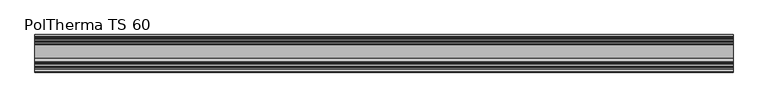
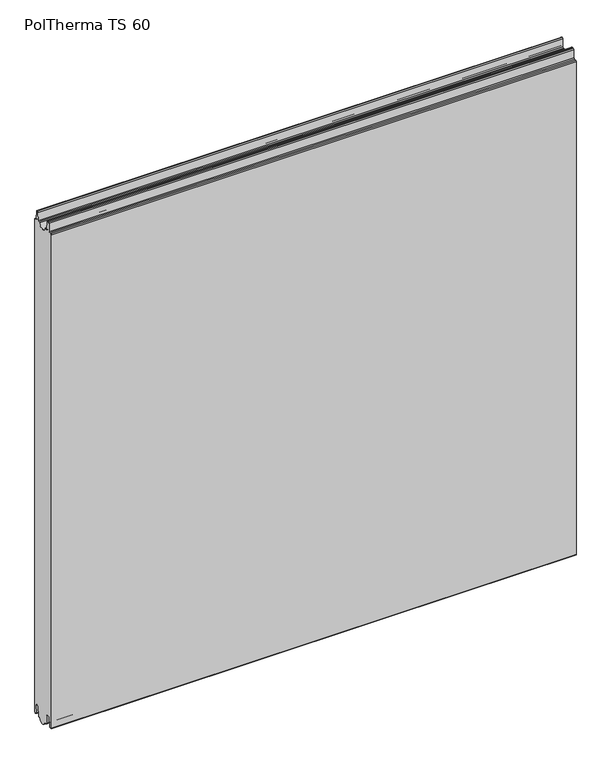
"""IFC4 building model written with IfcOpenShell, lengths in millimetres: plate geometry, Europanels_Poltherma TS_Hz : PolTherma TS 60."""

from ifc_helpers import new_model, si_unit, frame, origin, place, context, project, spatial, polyline, circle_curve, source, transform, mapped, element, save
from ifc_brep_helpers import plane_surface, cylinder_surface, revolved_surface, advanced_brep


def poltherma_ts_60_d6ba0856(model_context):
    return source(origin(), model_context, "Body", "AdvancedBrep", [
        advanced_brep(
        [(550.0, -30.0, 1096.5011047), (550.0, -30.0, 3.4988953), (550.0, -28.0, 1.4988953), (550.0, -25.2751521, 1.4988953), (550.0, -23.2780726, 3.3908514), (550.0, -22.3165207, 21.1641379), (550.0, -19.3209015, 24.0020721), (550.0, -16.3793238, 24.0020721), (550.0, -13.3842966, 21.1747334), (550.0, -12.3477941, 3.1952985), (550.0, -10.5507777, 1.4988953), (550.0, -7.1267156, 1.4988953), (550.0, 12.5267156, 1.4988953), (550.0, 14.9895357, 1.4988953), (550.0, 16.7366349, 3.1481762), (550.0, 17.7718427, 21.1051522), (550.0, 24.3282622, 21.093556), (550.0, 25.2663769, 3.7534806), (550.0, 30.0, 3.8814338), (550.0, 30.0, 1096.5011047), (550.0, 28.0, 1098.5011047), (550.0, 26.2557869, 1098.5011047), (550.0, 24.2596673, 1100.3765791), (550.0, 23.1836057, 1117.6256302), (550.0, 20.8891901, 1119.5129093), (550.0, 18.8727407, 1117.5838246), (550.0, 18.1120505, 1100.4152514), (550.0, 16.113894, 1098.5011047), (550.0, 13.3234285, 1098.5011047), (550.0, -7.9234285, 1098.5011047), (550.0, -11.9117672, 1098.5011047), (550.0, -13.7101357, 1100.2244834), (550.0, -14.4498501, 1117.5862394), (550.0, -16.4480373, 1119.5011047), (550.0, -19.1874198, 1119.5011047), (550.0, -21.1836192, 1117.624345), (550.0, -22.2483736, 1100.3778643), (550.0, -24.244573, 1098.5011047), (550.0, -28.0, 1098.5011047), (-550.0, -30.0, 1096.5011047), (-550.0, -28.0, 1098.5011047), (-550.0, -24.244573, 1098.5011047), (-550.0, -22.2483736, 1100.3778643), (-550.0, -21.1836192, 1117.624345), (-550.0, -19.1874198, 1119.5011047), (-550.0, -16.4480373, 1119.5011047), (-550.0, -14.4498501, 1117.5862394), (-550.0, -13.7101357, 1100.2244834), (-550.0, -11.9117672, 1098.5011047), (-550.0, -7.9234285, 1098.5011047), (-550.0, 13.3234285, 1098.5011047), (-550.0, 16.113894, 1098.5011047), (-550.0, 18.1120505, 1100.4152514), (-550.0, 18.8727407, 1117.5838246), (-550.0, 20.8891901, 1119.5129093), (-550.0, 23.1349611, 1117.6366155), (-550.0, 24.2596673, 1100.3765791), (-550.0, 26.2557869, 1098.5011047), (-550.0, 28.0, 1098.5011047), (-550.0, 30.0, 1096.5011047), (-550.0, 30.0, 3.8814338), (-550.0, 25.2663769, 3.7534806), (-550.0, 24.3282622, 21.093556), (-550.0, 17.7718427, 21.1051522), (-550.0, 16.7366349, 3.1481762), (-550.0, 14.9895357, 1.4988953), (-550.0, 12.5267156, 1.4988953), (-550.0, -7.1267156, 1.4988953), (-550.0, -10.5507777, 1.4988953), (-550.0, -12.3477941, 3.1952985), (-550.0, -13.3842966, 21.1747334), (-550.0, -16.3793238, 24.0020721), (-550.0, -19.3209015, 24.0020721), (-550.0, -22.3165207, 21.1641379), (-550.0, -23.2780726, 3.3908514), (-550.0, -25.2751521, 1.4988953), (-550.0, -28.0, 1.4988953), (-550.0, -30.0, 3.4988953)],
        [
            (0, 1),
            (1, 2, circle_curve(frame((550.0, -28.0, 3.4988953), z_axis=(1.0, 0.0, 0.0), x_axis=(0.0, 1.0, 0.0)), 2.0)),
            (2, 3),
            (3, 4, circle_curve(frame((550.0, -25.2751521, 3.4988953), z_axis=(1.0, 0.0, 0.0), x_axis=(0.0, 1.0, 0.0)), 2.0)),
            (4, 5),
            (5, 6, circle_curve(frame((550.0, -19.3209015, 21.0020721), z_axis=(-1.0, 0.0, 0.0), x_axis=(0.0, 1.0, 0.0)), 3.0)),
            (6, 7),
            (7, 8, circle_curve(frame((550.0, -16.3793238, 21.0020721), z_axis=(-1.0, 0.0, 0.0), x_axis=(0.0, 1.0, 0.0)), 3.0)),
            (8, 9),
            (9, 10, circle_curve(frame((550.0, -10.5507777, 3.2988953), z_axis=(1.0, 0.0, 0.0), x_axis=(0.0, 1.0, 0.0)), 1.8)),
            (10, 11),
            (11, 12, circle_curve(frame((550.0, 2.7, 3.3524487), z_axis=(1.0, 0.0, 0.0), x_axis=(0.0, 1.0, 0.0)), 10.0)),
            (12, 13),
            (13, 14, circle_curve(frame((550.0, 14.9895357, 3.2488953), z_axis=(1.0, 0.0, 0.0), x_axis=(0.0, 1.0, 0.0)), 1.75)),
            (14, 15),
            (15, 16, circle_curve(frame((550.0, 21.0497285, 20.9161842), z_axis=(-1.0, 0.0, 0.0), x_axis=(0.0, 1.0, 0.0)), 3.2833282)),
            (16, 17),
            (17, 18, circle_curve(frame((550.0, 27.6314591, 3.8814338), z_axis=(1.0, 0.0, 0.0), x_axis=(0.0, 1.0, 0.0)), 2.3685409)),
            (18, 19),
            (19, 20, circle_curve(frame((550.0, 28.0, 1096.5011047), z_axis=(1.0, 0.0, 0.0), x_axis=(0.0, 1.0, 0.0)), 2.0)),
            (20, 21),
            (21, 22, circle_curve(frame((550.0, 26.2557869, 1100.5011047), z_axis=(-1.0, 0.0, 0.0), x_axis=(0.0, 1.0, 0.0)), 2.0)),
            (22, 23),
            (23, 24, circle_curve(frame((550.0, 21.1234323, 1117.5111287), z_axis=(1.0, 0.0, 0.0), x_axis=(0.0, 1.0, 0.0)), 2.0154391)),
            (24, 25, circle_curve(frame((550.0, 20.8891901, 1117.4944815), z_axis=(1.0, 0.0, 0.0), x_axis=(0.0, 1.0, 0.0)), 2.0184277)),
            (25, 26),
            (26, 27, circle_curve(frame((550.0, 16.113894, 1100.5011047), z_axis=(-1.0, 0.0, 0.0), x_axis=(0.0, 1.0, 0.0)), 2.0)),
            (27, 28),
            (28, 29, circle_curve(frame((550.0, 2.7, 1101.354658), z_axis=(-1.0, 0.0, 0.0), x_axis=(0.0, 1.0, 0.0)), 11.0)),
            (29, 30),
            (30, 31, circle_curve(frame((550.0, -11.9117672, 1100.3011047), z_axis=(-1.0, 0.0, 0.0), x_axis=(0.0, 1.0, 0.0)), 1.8)),
            (31, 32),
            (32, 33, circle_curve(frame((550.0, -16.4480373, 1117.5011047), z_axis=(1.0, 0.0, 0.0), x_axis=(0.0, 1.0, 0.0)), 2.0)),
            (33, 34),
            (34, 35, circle_curve(frame((550.0, -19.1874198, 1117.5011047), z_axis=(1.0, 0.0, 0.0), x_axis=(0.0, 1.0, 0.0)), 2.0)),
            (35, 36),
            (36, 37, circle_curve(frame((550.0, -24.244573, 1100.5011047), z_axis=(-1.0, 0.0, 0.0), x_axis=(0.0, 1.0, 0.0)), 2.0)),
            (37, 38),
            (38, 0, circle_curve(frame((550.0, -28.0, 1096.5011047), z_axis=(1.0, 0.0, 0.0), x_axis=(0.0, 1.0, 0.0)), 2.0)),
            (39, 40, circle_curve(frame((-550.0, -28.0, 1096.5011047), z_axis=(-1.0, 0.0, 0.0), x_axis=(0.0, 1.0, 0.0)), 2.0)),
            (40, 41),
            (41, 42, circle_curve(frame((-550.0, -24.244573, 1100.5011047), z_axis=(1.0, 0.0, 0.0), x_axis=(0.0, 1.0, 0.0)), 2.0)),
            (42, 43),
            (43, 44, circle_curve(frame((-550.0, -19.1874198, 1117.5011047), z_axis=(-1.0, 0.0, 0.0), x_axis=(0.0, 1.0, 0.0)), 2.0)),
            (44, 45),
            (45, 46, circle_curve(frame((-550.0, -16.4480373, 1117.5011047), z_axis=(-1.0, 0.0, 0.0), x_axis=(0.0, 1.0, 0.0)), 2.0)),
            (46, 47),
            (47, 48, circle_curve(frame((-550.0, -11.9117672, 1100.3011047), z_axis=(1.0, 0.0, 0.0), x_axis=(0.0, 1.0, 0.0)), 1.8)),
            (48, 49),
            (49, 50, circle_curve(frame((-550.0, 2.7, 1101.354658), z_axis=(1.0, 0.0, 0.0), x_axis=(0.0, 1.0, 0.0)), 11.0)),
            (50, 51),
            (51, 52, circle_curve(frame((-550.0, 16.113894, 1100.5011047), z_axis=(1.0, 0.0, 0.0), x_axis=(0.0, 1.0, 0.0)), 2.0)),
            (52, 53),
            (53, 54, circle_curve(frame((-550.0, 20.8891901, 1117.4944815), z_axis=(-1.0, 0.0, 0.0), x_axis=(0.0, 1.0, 0.0)), 2.0184277)),
            (54, 55, circle_curve(frame((-550.0, 21.1234323, 1117.5111287), z_axis=(-1.0, 0.0, 0.0), x_axis=(0.0, 1.0, 0.0)), 2.0154391)),
            (55, 56),
            (56, 57, circle_curve(frame((-550.0, 26.2557869, 1100.5011047), z_axis=(1.0, 0.0, 0.0), x_axis=(0.0, 1.0, 0.0)), 2.0)),
            (57, 58),
            (58, 59, circle_curve(frame((-550.0, 28.0, 1096.5011047), z_axis=(-1.0, 0.0, 0.0), x_axis=(0.0, 1.0, 0.0)), 2.0)),
            (59, 60),
            (60, 61, circle_curve(frame((-550.0, 27.6314591, 3.8814338), z_axis=(-1.0, 0.0, 0.0), x_axis=(0.0, 1.0, 0.0)), 2.3685409)),
            (61, 62),
            (62, 63, circle_curve(frame((-550.0, 21.0497285, 20.9161842), z_axis=(1.0, 0.0, 0.0), x_axis=(0.0, 1.0, 0.0)), 3.2833282)),
            (63, 64),
            (64, 65, circle_curve(frame((-550.0, 14.9895357, 3.2488953), z_axis=(-1.0, 0.0, 0.0), x_axis=(0.0, 1.0, 0.0)), 1.75)),
            (65, 66),
            (66, 67, circle_curve(frame((-550.0, 2.7, 3.3524487), z_axis=(-1.0, 0.0, 0.0), x_axis=(0.0, 1.0, 0.0)), 10.0)),
            (67, 68),
            (68, 69, circle_curve(frame((-550.0, -10.5507777, 3.2988953), z_axis=(-1.0, 0.0, 0.0), x_axis=(0.0, 1.0, 0.0)), 1.8)),
            (69, 70),
            (70, 71, circle_curve(frame((-550.0, -16.3793238, 21.0020721), z_axis=(1.0, 0.0, 0.0), x_axis=(0.0, 1.0, 0.0)), 3.0)),
            (71, 72),
            (72, 73, circle_curve(frame((-550.0, -19.3209015, 21.0020721), z_axis=(1.0, 0.0, 0.0), x_axis=(0.0, 1.0, 0.0)), 3.0)),
            (73, 74),
            (74, 75, circle_curve(frame((-550.0, -25.2751521, 3.4988953), z_axis=(-1.0, 0.0, 0.0), x_axis=(0.0, 1.0, 0.0)), 2.0)),
            (75, 76),
            (76, 77, circle_curve(frame((-550.0, -28.0, 3.4988953), z_axis=(-1.0, 0.0, 0.0), x_axis=(0.0, 1.0, 0.0)), 2.0)),
            (77, 39),
            (0, 39),
            (77, 1),
            (76, 2),
            (75, 3),
            (74, 4),
            (73, 5),
            (72, 6),
            (71, 7),
            (70, 8),
            (69, 9),
            (68, 10),
            (67, 11),
            (66, 12),
            (65, 13),
            (64, 14),
            (63, 15),
            (62, 16),
            (61, 17),
            (60, 18),
            (59, 19),
            (58, 20),
            (57, 21),
            (56, 22),
            (55, 23),
            (54, 24),
            (53, 25),
            (52, 26),
            (51, 27),
            (50, 28),
            (49, 29),
            (48, 30),
            (47, 31),
            (46, 32),
            (45, 33),
            (44, 34),
            (43, 35),
            (42, 36),
            (41, 37),
            (40, 38),
        ],
        [
            plane_surface(frame((550.0, -30.0, 3.4988953), z_axis=(1.0, 0.0, 0.0), x_axis=(0.0, 0.0, -1.0))),
            plane_surface(frame((-550.0, -30.0, 3.4988953), z_axis=(-1.0, 0.0, 0.0), x_axis=(0.0, 0.0, 1.0))),
            plane_surface(frame((550.0, -30.0, 1096.5011047), z_axis=(0.0, -1.0, 0.0), x_axis=(-1.0, 0.0, 0.0))),
            cylinder_surface(frame((-550.0, -28.0, 3.4988953), z_axis=(1.0, 0.0, 0.0), x_axis=(0.0, 1.0, 0.0)), 2.0),
            plane_surface(frame((550.0, -28.0, 1.4988953), z_axis=(0.0, 2.4317940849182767e-11, -1.0), x_axis=(-1.0, 0.0, 0.0))),
            cylinder_surface(frame((-550.0, -25.2751521, 3.4988953), z_axis=(1.0, 0.0, 0.0), x_axis=(0.0, 1.0, 0.0)), 2.0),
            plane_surface(frame((550.0, -23.2780726, 3.3908514), z_axis=(0.0, 0.9985397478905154, -0.054021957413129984), x_axis=(-1.0, 0.0, 0.0))),
            revolved_surface(polyline([(-550.0, -16.3209015, 21.0020721), (550.0, -16.3209015, 21.0020721)]), (-550.0, -19.3209015, 21.0020721), (-1.0, 0.0, 0.0)),
            plane_surface(frame((550.0, -19.3209015, 24.0020721), z_axis=(0.0, -3.679808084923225e-12, -1.0), x_axis=(-1.0, 0.0, 0.0))),
            revolved_surface(polyline([(-550.0, -13.379323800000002, 21.0020721), (550.0, -13.379323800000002, 21.0020721)]), (-550.0, -16.3793238, 21.0020721), (-1.0, 0.0, 0.0)),
            plane_surface(frame((550.0, -13.3842966, 21.1747334), z_axis=(0.0, -0.9983424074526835, -0.05755377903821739), x_axis=(-1.0, 0.0, 0.0))),
            cylinder_surface(frame((-550.0, -10.5507777, 3.2988953), z_axis=(1.0, 0.0, 0.0), x_axis=(0.0, 1.0, 0.0)), 1.8),
            plane_surface(frame((550.0, -10.5507777, 1.4988953), z_axis=(0.0, 7.512842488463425e-12, -1.0), x_axis=(-1.0, 0.0, 0.0))),
            cylinder_surface(frame((-550.0, 2.7, 3.3524487), z_axis=(1.0, 0.0, 0.0), x_axis=(0.0, 1.0, 0.0)), 10.0),
            plane_surface(frame((550.0, 12.5267156, 1.4988953), z_axis=(0.0, -5.6448534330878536e-11, -1.0), x_axis=(-1.0, 0.0, 0.0))),
            cylinder_surface(frame((-550.0, 14.9895357, 3.2488953), z_axis=(1.0, 0.0, 0.0), x_axis=(0.0, 1.0, 0.0)), 1.75),
            plane_surface(frame((550.0, 16.7366349, 3.1481762), z_axis=(0.0, 0.9983424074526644, -0.05755377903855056), x_axis=(-1.0, 0.0, 0.0))),
            revolved_surface(polyline([(-550.0, 24.3330567, 20.9161842), (550.0, 24.3330567, 20.9161842)]), (-550.0, 21.0497285, 20.9161842), (-1.0, 0.0, 0.0)),
            plane_surface(frame((550.0, 24.3282622, 21.093556), z_axis=(0.0, -0.9985397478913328, -0.05402195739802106), x_axis=(-1.0, 0.0, 0.0))),
            cylinder_surface(frame((-550.0, 27.6314591, 3.8814338), z_axis=(1.0, 0.0, 0.0), x_axis=(0.0, 1.0, 0.0)), 2.3685409),
            plane_surface(frame((550.0, 30.0, 3.8814338), z_axis=(0.0, 1.0, 0.0), x_axis=(-1.0, 0.0, 0.0))),
            cylinder_surface(frame((-550.0, 28.0, 1096.5011047), z_axis=(1.0, 0.0, 0.0), x_axis=(0.0, 1.0, 0.0)), 2.0),
            plane_surface(frame((550.0, 28.0, 1098.5011047), z_axis=(0.0, 1.862502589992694e-12, 1.0), x_axis=(-1.0, 0.0, 0.0))),
            revolved_surface(polyline([(-550.0, 28.2557869, 1100.5011047), (550.0, 28.2557869, 1100.5011047)]), (-550.0, 26.2557869, 1100.5011047), (-1.0, 0.0, 0.0)),
            plane_surface(frame((550.0, 24.2596673, 1100.3765791), z_axis=(0.0, 0.9980597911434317, 0.06226277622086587), x_axis=(-1.0, 0.0, 0.0))),
            cylinder_surface(frame((-550.0, 21.1234323, 1117.5111287), z_axis=(1.0, 0.0, 0.0), x_axis=(0.0, 1.0, 0.0)), 2.0154391),
            cylinder_surface(frame((-550.0, 20.8891901, 1117.4944815), z_axis=(1.0, 0.0, 0.0), x_axis=(0.0, 1.0, 0.0)), 2.0184277),
            plane_surface(frame((550.0, 18.8727407, 1117.5838246), z_axis=(0.0, -0.9990198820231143, 0.04426370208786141), x_axis=(-1.0, 0.0, 0.0))),
            revolved_surface(polyline([(-550.0, 18.113894, 1100.5011047), (550.0, 18.113894, 1100.5011047)]), (-550.0, 16.113894, 1100.5011047), (-1.0, 0.0, 0.0)),
            plane_surface(frame((550.0, 16.113894, 1098.5011047), z_axis=(0.0, 0.0, 1.0), x_axis=(-1.0, 0.0, 0.0))),
            revolved_surface(polyline([(-550.0, 13.7, 1101.354658), (550.0, 13.7, 1101.354658)]), (-550.0, 2.7, 1101.354658), (-1.0, 0.0, 0.0)),
            plane_surface(frame((550.0, -7.9234285, 1098.5011047), z_axis=(0.0, 0.0, 1.0), x_axis=(-1.0, 0.0, 0.0))),
            revolved_surface(polyline([(-550.0, -10.1117672, 1100.3011047), (550.0, -10.1117672, 1100.3011047)]), (-550.0, -11.9117672, 1100.3011047), (-1.0, 0.0, 0.0)),
            plane_surface(frame((550.0, -13.7101357, 1100.2244834), z_axis=(0.0, 0.9990935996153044, 0.042567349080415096), x_axis=(-1.0, 0.0, 0.0))),
            cylinder_surface(frame((-550.0, -16.4480373, 1117.5011047), z_axis=(1.0, 0.0, 0.0), x_axis=(0.0, 1.0, 0.0)), 2.0),
            plane_surface(frame((550.0, -16.4480373, 1119.5011047), z_axis=(0.0, 0.0, 1.0), x_axis=(-1.0, 0.0, 0.0))),
            cylinder_surface(frame((-550.0, -19.1874198, 1117.5011047), z_axis=(1.0, 0.0, 0.0), x_axis=(0.0, 1.0, 0.0)), 2.0),
            plane_surface(frame((550.0, -21.1836192, 1117.624345), z_axis=(0.0, -0.9980996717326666, 0.06162016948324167), x_axis=(-1.0, 0.0, 0.0))),
            revolved_surface(polyline([(-550.0, -22.244573, 1100.5011047), (550.0, -22.244573, 1100.5011047)]), (-550.0, -24.244573, 1100.5011047), (-1.0, 0.0, 0.0)),
            plane_surface(frame((550.0, -24.244573, 1098.5011047), z_axis=(0.0, 0.0, 1.0), x_axis=(-1.0, 0.0, 0.0))),
            cylinder_surface(frame((-550.0, -28.0, 1096.5011047), z_axis=(1.0, 0.0, 0.0), x_axis=(0.0, 1.0, 0.0)), 2.0),
        ],
        [
            (0, [[1, 2, 3, 4, 5, 6, 7, 8, 9, 10, 11, 12, 13, 14, 15, 16, 17, 18, 19, 20, 21, 22, 23, 24, 25, 26, 27, 28, 29, 30, 31, 32, 33, 34, 35, 36, 37, 38, 39]]),
            (1, [[40, 41, 42, 43, 44, 45, 46, 47, 48, 49, 50, 51, 52, 53, 54, 55, 56, 57, 58, 59, 60, 61, 62, 63, 64, 65, 66, 67, 68, 69, 70, 71, 72, 73, 74, 75, 76, 77, 78]]),
            (2, [[-1, 79, -78, 80]]),
            (3, [[-2, -80, -77, 81]]),
            (4, [[-3, -81, -76, 82]]),
            (5, [[-4, -82, -75, 83]]),
            (6, [[-5, -83, -74, 84]]),
            (7, [[-6, -84, -73, 85]]),
            (8, [[-7, -85, -72, 86]]),
            (9, [[-8, -86, -71, 87]]),
            (10, [[-9, -87, -70, 88]]),
            (11, [[-10, -88, -69, 89]]),
            (12, [[-11, -89, -68, 90]]),
            (13, [[-12, -90, -67, 91]]),
            (14, [[-13, -91, -66, 92]]),
            (15, [[-14, -92, -65, 93]]),
            (16, [[-15, -93, -64, 94]]),
            (17, [[-16, -94, -63, 95]]),
            (18, [[-17, -95, -62, 96]]),
            (19, [[-18, -96, -61, 97]]),
            (20, [[-19, -97, -60, 98]]),
            (21, [[-20, -98, -59, 99]]),
            (22, [[-21, -99, -58, 100]]),
            (23, [[-22, -100, -57, 101]]),
            (24, [[-23, -101, -56, 102]]),
            (25, [[-24, -102, -55, 103]]),
            (26, [[-25, -103, -54, 104]]),
            (27, [[-26, -104, -53, 105]]),
            (28, [[-27, -105, -52, 106]]),
            (29, [[-28, -106, -51, 107]]),
            (30, [[-29, -107, -50, 108]]),
            (31, [[-30, -108, -49, 109]]),
            (32, [[-31, -109, -48, 110]]),
            (33, [[-32, -110, -47, 111]]),
            (34, [[-33, -111, -46, 112]]),
            (35, [[-34, -112, -45, 113]]),
            (36, [[-35, -113, -44, 114]]),
            (37, [[-36, -114, -43, 115]]),
            (38, [[-37, -115, -42, 116]]),
            (39, [[-38, -116, -41, 117]]),
            (40, [[-39, -117, -40, -79]]),
        ],
    ),
    ])


if __name__ == "__main__":
    model = new_model("IFC4")
    model_context = context("Model", 3, world=origin())
    ifc_project = project(units=[si_unit("LENGTHUNIT", "METRE", prefix="MILLI")], contexts=[model_context])
    site = spatial("IfcSite", under=ifc_project)
    building = spatial("IfcBuilding", under=site)
    placement = place(None, origin())
    poltherma_ts_60_shape = poltherma_ts_60_d6ba0856(model_context)
    element("IfcPlate", 1, ObjectType="Europanels_Poltherma TS_Hz : PolTherma TS 60", at=placement, inside=building, context=model_context, shape_type="MappedRepresentation", body=[
        mapped(poltherma_ts_60_shape, transform((0.0, 0.0, 0.0), x_axis=(1.0, 0.0, 0.0), y_axis=(0.0, 1.0, 0.0), z_axis=(0.0, 0.0, 1.0))),
    ])
    save(model, "model.ifc")
